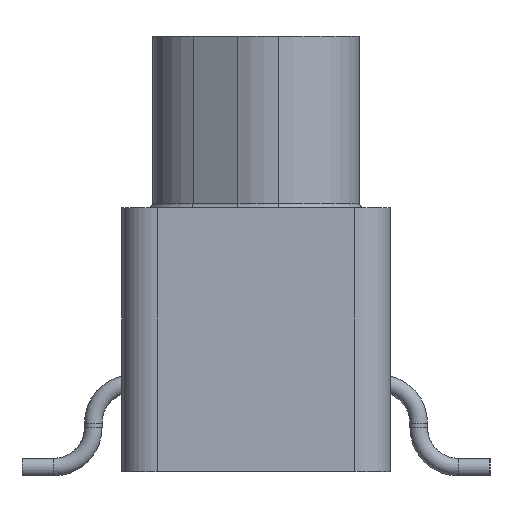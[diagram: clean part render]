
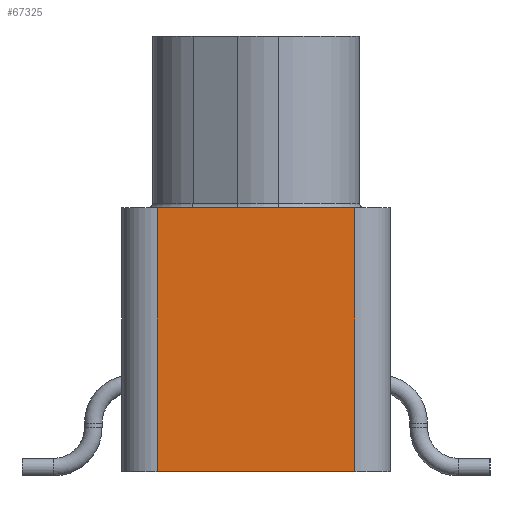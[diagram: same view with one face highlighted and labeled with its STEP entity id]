
A CAD part, left-side view. The second image highlights one B-rep face of the part: STEP entity #67325.
In plain terms, the highlighted planar face has unit normal (-1, 0, 0).
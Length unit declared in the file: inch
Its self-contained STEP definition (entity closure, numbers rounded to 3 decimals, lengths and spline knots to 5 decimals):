
#1528 = VERTEX_POINT ( 'NONE', #57283 ) ;
#3180 = FACE_OUTER_BOUND ( 'NONE', #24956, .T. ) ;
#4555 = ORIENTED_EDGE ( 'NONE', *, *, #23514, .T. ) ;
#9776 = ORIENTED_EDGE ( 'NONE', *, *, #38172, .F. ) ;
#11335 = ORIENTED_EDGE ( 'NONE', *, *, #32362, .F. ) ;
#15872 = LINE ( 'NONE', #16288, #69638 ) ;
#16049 = CARTESIAN_POINT ( 'NONE',  ( -0.7375, -0.1125, 0.04 ) ) ;
#16288 = CARTESIAN_POINT ( 'NONE',  ( -0.7375, -0.1125, -0.26 ) ) ;
#22602 = DIRECTION ( 'NONE',  ( 0., 1., 0. ) ) ;
#23514 = EDGE_CURVE ( 'NONE', #68796, #31389, #79505, .T. ) ;
#24451 = AXIS2_PLACEMENT_3D ( 'NONE', #16049, #53864, #78055 ) ;
#24956 = EDGE_LOOP ( 'NONE', ( #30141, #11335, #9776, #4555 ) ) ;
#28520 = CARTESIAN_POINT ( 'NONE',  ( -0.7375, -0.1125, -0.26 ) ) ;
#28594 = PLANE ( 'NONE',  #24451 ) ;
#30141 = ORIENTED_EDGE ( 'NONE', *, *, #60451, .T. ) ;
#31389 = VERTEX_POINT ( 'NONE', #81242 ) ;
#32362 = EDGE_CURVE ( 'NONE', #49600, #1528, #15872, .T. ) ;
#37597 = CARTESIAN_POINT ( 'NONE',  ( -0.7375, 0.1125, 0.04 ) ) ;
#38172 = EDGE_CURVE ( 'NONE', #68796, #49600, #63212, .T. ) ;
#43231 = CARTESIAN_POINT ( 'NONE',  ( -0.7375, -0.1125, 0.04 ) ) ;
#49600 = VERTEX_POINT ( 'NONE', #28520 ) ;
#49899 = VECTOR ( 'NONE', #55674, 39.37008 ) ;
#51263 = DIRECTION ( 'NONE',  ( 0., 0., -1. ) ) ;
#53864 = DIRECTION ( 'NONE',  ( -1., 0., 0. ) ) ;
#55619 = CARTESIAN_POINT ( 'NONE',  ( -0.7375, -0.1125, 0.04 ) ) ;
#55674 = DIRECTION ( 'NONE',  ( 0., 1., 0. ) ) ;
#57283 = CARTESIAN_POINT ( 'NONE',  ( -0.7375, 0.1125, -0.26 ) ) ;
#57749 = DIRECTION ( 'NONE',  ( 0., 0., -1. ) ) ;
#60451 = EDGE_CURVE ( 'NONE', #31389, #1528, #68761, .T. ) ;
#63212 = LINE ( 'NONE', #70293, #70711 ) ;
#67325 = ADVANCED_FACE ( 'NONE', ( #3180 ), #28594, .T. ) ;
#68761 = LINE ( 'NONE', #37597, #70512 ) ;
#68796 = VERTEX_POINT ( 'NONE', #55619 ) ;
#69638 = VECTOR ( 'NONE', #22602, 39.37008 ) ;
#70293 = CARTESIAN_POINT ( 'NONE',  ( -0.7375, -0.1125, 0.04 ) ) ;
#70512 = VECTOR ( 'NONE', #51263, 39.37008 ) ;
#70711 = VECTOR ( 'NONE', #57749, 39.37008 ) ;
#78055 = DIRECTION ( 'NONE',  ( 0., 0., 1. ) ) ;
#79505 = LINE ( 'NONE', #43231, #49899 ) ;
#81242 = CARTESIAN_POINT ( 'NONE',  ( -0.7375, 0.1125, 0.04 ) ) ;
